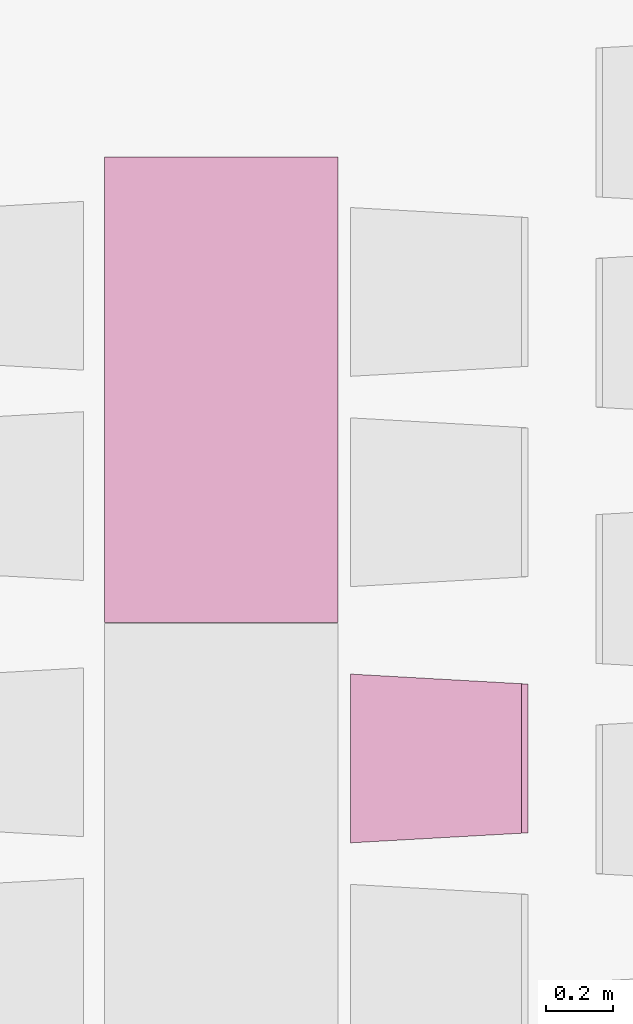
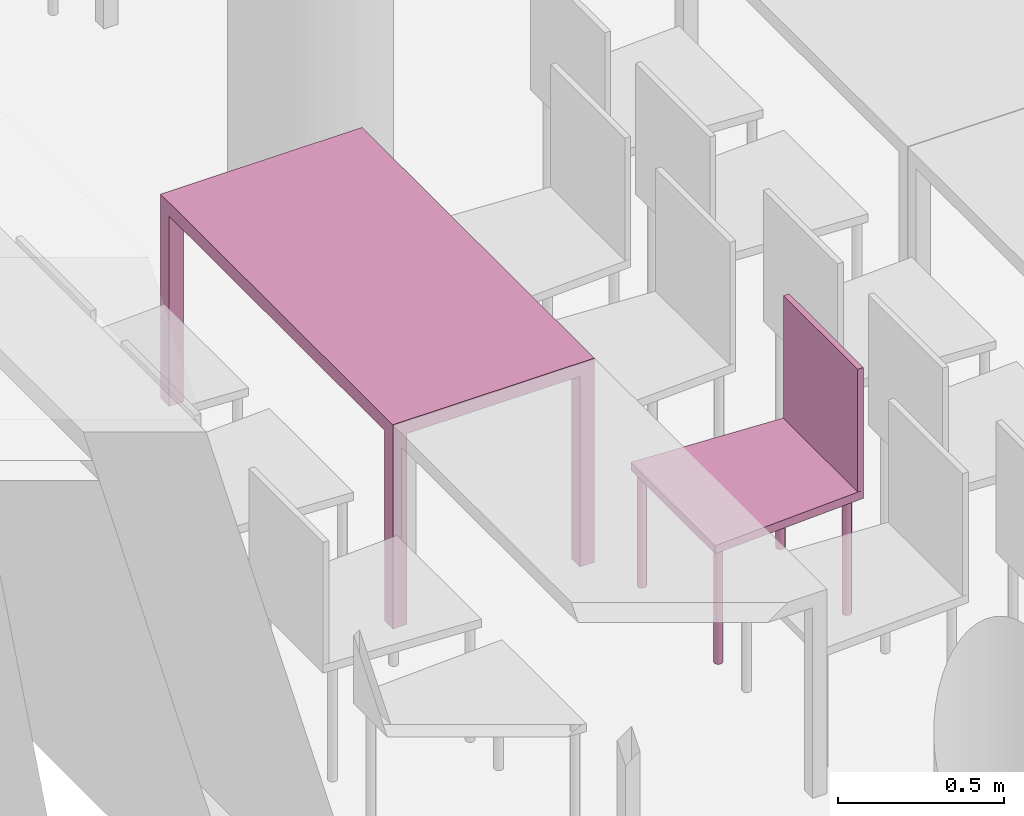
"""IFC4 building model written with IfcOpenShell, lengths in metres."""

import ifcopenshell
import ifcopenshell.guid

model = None  # the IFC model being written
_history = None  # IfcOwnerHistory: only IFC2X3 demands one
_inside = {}  # id of a spatial element -> (the spatial element, [elements in it])
_under = {}  # id of a project, library or spatial element -> (it, [spatial elements below it])
_declared = {}  # id of a project -> (the project, [libraries it declares])
_typed = {}  # id of a type object -> (the type object, [elements of that type])
_made_of = {}  # id of a material, layer set ... -> (it, [elements and type objects made of it])


def new_model(schema):
    """Start an empty IFC model of exactly this schema.

    Asked for "IFC4X3", IfcOpenShell would pick the latest addendum, in which some entities
    have other attributes; the version numbers below select the first issue.
    IFC2X3 requires an IfcOwnerHistory on every rooted entity: one is made here for all.
    """
    global model, _history
    if schema == "IFC4X3":
        model = ifcopenshell.file(schema_version=(4, 3, 0, 0))
    else:
        model = ifcopenshell.file(schema=schema)
    _inside.clear()
    _under.clear()
    _declared.clear()
    _typed.clear()
    _made_of.clear()
    _history = None
    if model.schema == "IFC2X3":
        org = make("IfcOrganization", Name="unknown")
        user = make(
            "IfcPersonAndOrganization",
            ThePerson=make("IfcPerson", FamilyName="unknown"),
            TheOrganization=org,
        )
        app = make(
            "IfcApplication",
            ApplicationDeveloper=org,
            Version="unknown",
            ApplicationFullName="unknown",
            ApplicationIdentifier="unknown",
        )
        _history = make(
            "IfcOwnerHistory",
            OwningUser=user,
            OwningApplication=app,
            ChangeAction="ADDED",
            CreationDate=0,
        )
    return model


def make(cls, **values):
    """One entity of the class cls with the attributes given. An attribute that is None is left unset."""
    return model.create_entity(
        cls, **{name: value for name, value in values.items() if value is not None}
    )


def entity(cls, *values):
    """Any entity or typed value of the class cls, its attributes in the order of the schema. None: left unset."""
    e = model.create_entity(cls)
    for i, value in enumerate(values):
        if value is not None:
            e[i] = value
    return e


def rooted(cls, **values):
    """An entity with a GlobalId (a new one), such as an element, a storey or a relation."""
    return make(cls, GlobalId=ifcopenshell.guid.new(), OwnerHistory=_history, **values)


def si_unit(unit_type, name, prefix=None):
    """IfcSIUnit, for example si_unit("LENGTHUNIT", "METRE", prefix="MILLI")."""
    return make("IfcSIUnit", UnitType=unit_type, Prefix=prefix, Name=name)


def converted_unit(unit_type, name, factor, base, dimensions=None, offset=None):
    """IfcConversionBasedUnit, such as the inch: factor (a typed value) times the base unit."""
    return make(
        "IfcConversionBasedUnit"
        if offset is None
        else "IfcConversionBasedUnitWithOffset",
        ConversionOffset=offset,
        Dimensions=None
        if dimensions is None
        else entity("IfcDimensionalExponents", *dimensions),
        UnitType=unit_type,
        Name=name,
        ConversionFactor=make(
            "IfcMeasureWithUnit", ValueComponent=factor, UnitComponent=base
        ),
    )


def derived_unit(unit_type, elements):
    """IfcDerivedUnit: a product of units, each with its exponent."""
    return make(
        "IfcDerivedUnit",
        Elements=[
            make("IfcDerivedUnitElement", Unit=unit, Exponent=power)
            for unit, power in elements
        ],
        UnitType=unit_type,
    )


def assignment(units):
    """IfcUnitAssignment: the units of a project."""
    return None if units is None else make("IfcUnitAssignment", Units=units)


def point(xyz):
    """IfcCartesianPoint."""
    return None if xyz is None else make("IfcCartesianPoint", Coordinates=xyz)


def direction(xyz):
    """IfcDirection."""
    return None if xyz is None else make("IfcDirection", DirectionRatios=xyz)


def frame(location, z_axis=None, x_axis=None):
    """IfcAxis2Placement3D, a coordinate frame: its origin and axes. An axis left out is left unset."""
    return make(
        "IfcAxis2Placement3D",
        Location=point(location),
        Axis=direction(z_axis),
        RefDirection=direction(x_axis),
    )


def origin():
    """The frame at (0, 0, 0) with its axes left unset."""
    return frame((0.0, 0.0, 0.0))


def place(relative_to, where):
    """IfcLocalPlacement: puts the frame where relative to a parent placement (None: the world)."""
    return make(
        "IfcLocalPlacement", PlacementRelTo=relative_to, RelativePlacement=where
    )


def context(
    kind, dimensions, precision=None, world=None, true_north=None, identifier=None
):
    """IfcGeometricRepresentationContext, for example the 3D "Model" context."""
    return make(
        "IfcGeometricRepresentationContext",
        ContextIdentifier=identifier,
        ContextType=kind,
        CoordinateSpaceDimension=dimensions,
        Precision=precision,
        WorldCoordinateSystem=world,
        TrueNorth=true_north,
    )


def subcontext(parent, identifier, kind, view, scale=None):
    """IfcGeometricRepresentationSubContext, for example "Body" below "Model"."""
    return make(
        "IfcGeometricRepresentationSubContext",
        ContextIdentifier=identifier,
        ContextType=kind,
        ParentContext=parent,
        TargetScale=scale,
        TargetView=view,
    )


def project(units=None, contexts=None):
    """IfcProject with its units and contexts."""
    return rooted(
        "IfcProject",
        Name="project",
        RepresentationContexts=contexts,
        UnitsInContext=assignment(units),
    )


def spatial(cls, under=None, at=None, **own):
    """A site, building, storey or space (cls), placed at a placement, below another one or the project."""
    s = rooted(cls, ObjectPlacement=at, **own)
    if under is not None:
        _under.setdefault(under.id(), (under, []))[1].append(s)
    return s


def faces_of(points, faces, orient=None, outer=None):
    """IfcFace entities. A face is a list of loops; a loop is a list of indices into points, from 0.

    orient and outer hold one flag for each loop. By default every Orientation is true, the
    first loop of a face is its IfcFaceOuterBound and the others are IfcFaceBound.
    """
    made = []
    for i, loops in enumerate(faces):
        bounds = []
        for j, loop in enumerate(loops):
            is_outer = j == 0 if outer is None else outer[i][j]
            bounds.append(
                make(
                    "IfcFaceOuterBound" if is_outer else "IfcFaceBound",
                    Bound=make("IfcPolyLoop", Polygon=[points[k] for k in loop]),
                    Orientation=True if orient is None else orient[i][j],
                )
            )
        made.append(make("IfcFace", Bounds=bounds))
    return made


def faceted_brep(points, faces, orient=None, outer=None, voids=None):
    """IfcFacetedBrep: a solid bounded by flat faces; with voids (closed shells), ...WithVoids."""
    shared = [point(p) for p in points]
    hull = make("IfcClosedShell", CfsFaces=faces_of(shared, faces, orient, outer))
    if voids is None:
        return make("IfcFacetedBrep", Outer=hull)
    return make(
        "IfcFacetedBrepWithVoids",
        Outer=hull,
        Voids=[
            make(cls, CfsFaces=faces_of(shared, fs, o, b)) for cls, fs, o, b in voids
        ],
    )


def shape(context_of_items, identifier, shape_type, items):
    """IfcShapeRepresentation: the items that make up one representation, for example the "Body"."""
    return make(
        "IfcShapeRepresentation",
        ContextOfItems=context_of_items,
        RepresentationIdentifier=identifier,
        RepresentationType=shape_type,
        Items=items,
    )


def made_of(thing, what):
    """Note that an element or type object is made of a material, layer set ...; save() writes the relation."""
    if what is not None:
        _made_of.setdefault(what.id(), (what, []))[1].append(thing)
    return thing


def element(
    cls,
    number,
    at=None,
    inside=None,
    cuts=None,
    type_object=None,
    material=None,
    context=None,
    identifier="Body",
    shape_type=None,
    held_by="IfcProductDefinitionShape",
    body=None,
    shapes=None,
    **own,
):
    """One element of the class cls, such as IfcWall. Its Tag is "e" and its number.

    at: its placement. inside: the storey or other place that contains it. cuts: it is an
    opening in that element (IfcRelVoidsElement). A single representation is given by context,
    identifier, shape_type and body (its items); several are given by shapes. held_by: the class
    of the entity that holds the representations. save() writes the other relations.
    """
    e = rooted(cls, Tag="e%d" % number, ObjectPlacement=at, **own)
    if body is not None:
        shapes = [shape(context, identifier, shape_type, body)]
    if shapes is not None:
        e.Representation = make(held_by, Representations=shapes)
    if inside is not None:
        _inside.setdefault(inside.id(), (inside, []))[1].append(e)
    if cuts is not None:
        rooted(
            "IfcRelVoidsElement", RelatingBuildingElement=cuts, RelatedOpeningElement=e
        )
    if type_object is not None:
        _typed.setdefault(type_object.id(), (type_object, []))[1].append(e)
    return made_of(e, material)


def aggregate(whole, parts):
    """IfcRelAggregates: a whole, such as a stair, and the parts it consists of."""
    return rooted("IfcRelAggregates", RelatingObject=whole, RelatedObjects=parts)


def save(model, path):
    """Write the relations noted so far, then the file.

    IfcRelAggregates (storeys below a building ...), IfcRelContainedInSpatialStructure (elements
    in a storey), IfcRelDefinesByType, IfcRelAssociatesMaterial and IfcRelDeclares: one each for
    every whole, place, type object, material and project.
    """
    for whole, parts in _under.values():
        aggregate(whole, parts)
    for where, things in _inside.values():
        rooted(
            "IfcRelContainedInSpatialStructure",
            RelatedElements=things,
            RelatingStructure=where,
        )
    for kind, things in _typed.values():
        rooted("IfcRelDefinesByType", RelatedObjects=things, RelatingType=kind)
    for what, things in _made_of.values():
        rooted("IfcRelAssociatesMaterial", RelatedObjects=things, RelatingMaterial=what)
    for by, libraries in _declared.values():
        rooted("IfcRelDeclares", RelatingContext=by, RelatedDefinitions=libraries)
    model.write(path)


model = new_model("IFC4")

# Units and contexts
model_context = context("Model", 3, precision=1e-05, world=origin())
body_context = subcontext(model_context, "Body", "Model", "MODEL_VIEW")
ifc_project = project(units=[si_unit("LENGTHUNIT", "METRE"), si_unit("AREAUNIT", "SQUARE_METRE"), si_unit("VOLUMEUNIT", "CUBIC_METRE"), si_unit("MASSUNIT", "GRAM", prefix="KILO"), converted_unit("PLANEANGLEUNIT", "DEGREE", entity("IfcPlaneAngleMeasure", 0.0174532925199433), si_unit("PLANEANGLEUNIT", "RADIAN"), dimensions=[0, 0, 0, 0, 0, 0, 0]), derived_unit("THERMALTRANSMITTANCEUNIT", [(si_unit("POWERUNIT", "WATT"), 1), (si_unit("THERMODYNAMICTEMPERATUREUNIT", "KELVIN"), -1), (si_unit("LENGTHUNIT", "METRE"), -2)]), derived_unit("VOLUMETRICFLOWRATEUNIT", [(si_unit("LENGTHUNIT", "METRE"), 3), (converted_unit("TIMEUNIT", "hour", entity("IfcTimeMeasure", 3600.0), si_unit("TIMEUNIT", "SECOND"), dimensions=[0, 0, 1, 0, 0, 0, 0]), -1), (si_unit("LENGTHUNIT", "METRE"), -1)])], contexts=[model_context])

# Building, storeys
building_placement = place(None, origin())
building = spatial("IfcBuilding", under=ifc_project, at=building_placement, Name="HABITATGE PLURIFAMILIAR", CompositionType="ELEMENT")
storey_1_placement = place(building_placement, frame((0.0, 0.0, 3.35)))
storey_1 = spatial("IfcBuildingStorey", under=building, at=storey_1_placement, Name="PLANTA  ALTELL", CompositionType="ELEMENT", Elevation=3.35)
storey_2_placement = place(storey_1_placement, origin())
storey_2 = spatial("IfcBuildingStorey", under=storey_1, at=storey_2_placement, Name="NOU", CompositionType="PARTIAL")

# Furniture
furniture_1_placement = place(storey_2_placement, frame((399.981918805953, 15.5626455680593, 0.05)))
element("IfcFurniture", 1, at=furniture_1_placement, inside=storey_2, Name="Taula 140X80_PA", context=body_context, shape_type="Brep", body=[
    faceted_brep([(0.7, 0.0500000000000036, 0.0), (0.65, 0.0500000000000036, 0.0), (0.65, 0.0, 0.0), (0.7, 0.0, 0.0), (0.65, 0.0500000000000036, 0.7), (0.7, 0.0500000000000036, 0.7), (0.7, 0.0, 0.7), (0.65, 0.0, 0.7)], [[[0, 1, 2, 3]], [[4, 5, 6, 7]], [[1, 0, 5, 4]], [[2, 1, 4, 7]], [[3, 2, 7, 6]], [[0, 3, 6, 5]]], orient=[[False], [False], [False], [False], [False], [False]]),
    faceted_brep([(0.7, 1.39694592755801, 0.0), (0.65, 1.39694592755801, 0.0), (0.65, 1.34694592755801, 0.0), (0.7, 1.34694592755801, 0.0), (0.65, 1.39694592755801, 0.7), (0.7, 1.39694592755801, 0.7), (0.7, 1.34694592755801, 0.7), (0.65, 1.34694592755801, 0.7)], [[[0, 1, 2, 3]], [[4, 5, 6, 7]], [[1, 0, 5, 4]], [[2, 1, 4, 7]], [[3, 2, 7, 6]], [[0, 3, 6, 5]]], orient=[[False], [False], [False], [False], [False], [False]]),
    faceted_brep([(0.7, 1.396945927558, 0.7), (0.0, 1.396945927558, 0.7), (0.0, 0.0, 0.7), (0.7, 0.0, 0.7), (0.0, 1.396945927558, 0.75), (0.7, 1.396945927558, 0.75), (0.7, 0.0, 0.75), (0.0, 0.0, 0.75)], [[[0, 1, 2, 3]], [[4, 5, 6, 7]], [[1, 0, 5, 4]], [[2, 1, 4, 7]], [[3, 2, 7, 6]], [[0, 3, 6, 5]]], orient=[[False], [False], [False], [False], [False], [False]]),
    faceted_brep([(0.05, 0.05, 0.0), (0.0, 0.05, 0.0), (0.0, 0.0, 0.0), (0.05, 0.0, 0.0), (0.0, 0.05, 0.7), (0.05, 0.05, 0.7), (0.05, 0.0, 0.7), (0.0, 0.0, 0.7)], [[[0, 1, 2, 3]], [[4, 5, 6, 7]], [[1, 0, 5, 4]], [[2, 1, 4, 7]], [[3, 2, 7, 6]], [[0, 3, 6, 5]]], orient=[[False], [False], [False], [False], [False], [False]]),
    faceted_brep([(0.05, 1.396945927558, 0.0), (0.0, 1.396945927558, 0.0), (0.0, 1.346945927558, 0.0), (0.05, 1.346945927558, 0.0), (0.0, 1.396945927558, 0.7), (0.05, 1.396945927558, 0.7), (0.05, 1.346945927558, 0.7), (0.0, 1.346945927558, 0.7)], [[[0, 1, 2, 3]], [[4, 5, 6, 7]], [[1, 0, 5, 4]], [[2, 1, 4, 7]], [[3, 2, 7, 6]], [[0, 3, 6, 5]]], orient=[[False], [False], [False], [False], [False], [False]]),
])
furniture_2_placement = place(storey_2_placement, frame((400.719669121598, 14.9018682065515, 0.0499839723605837)))
element("IfcFurniture", 2, at=furniture_2_placement, inside=storey_2, Name="Cadira confident_PA", context=body_context, shape_type="Brep", body=[
    faceted_brep([(0.0250324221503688, 0.0391636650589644, 0.0), (0.0224394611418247, 0.0389254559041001, 0.0), (0.0199272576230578, 0.038240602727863, 0.0), (0.0175721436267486, 0.0371299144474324, 0.0), (0.0154456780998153, 0.0356271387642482, 0.0), (0.0136124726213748, 0.0337779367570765, 0.0), (0.0121282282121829, 0.0316384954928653, 0.0), (0.0110380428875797, 0.0292738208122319, 0.0), (0.010375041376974, 0.0267557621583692, 0.0), (0.0101593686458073, 0.0241608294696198, 0.0), (0.010397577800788, 0.0215678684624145, 0.0), (0.0110824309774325, 0.0190556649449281, 0.0), (0.0121931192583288, 0.0167005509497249, 0.0), (0.0136958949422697, 0.0145740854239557, 0.0), (0.0155450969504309, 0.0127408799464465, 0.0), (0.0176845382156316, 0.0112566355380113, 0.0), (0.0200492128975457, 0.010166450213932, 0.0), (0.0225672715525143, 0.00950344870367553, 0.0), (0.0251622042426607, 0.00928777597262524, 0.0), (0.0277551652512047, 0.00952598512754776, 0.0), (0.0302673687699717, 0.0102108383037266, 0.0), (0.0326224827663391, 0.0113215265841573, 0.0), (0.0347489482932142, 0.0128243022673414, 0.0), (0.0365821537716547, 0.0146735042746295, 0.0), (0.0380663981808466, 0.0168129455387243, 0.0), (0.0391565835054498, 0.019177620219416, 0.0), (0.0398195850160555, 0.0216956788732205, 0.0), (0.0400352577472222, 0.0242906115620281, 0.0), (0.0397970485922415, 0.0268835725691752, 0.0), (0.0391121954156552, 0.0293957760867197, 0.0), (0.0380015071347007, 0.0317508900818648, 0.0), (0.0364987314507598, 0.0338773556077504, 0.0), (0.0346495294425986, 0.0357105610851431, 0.0), (0.0325100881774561, 0.0371948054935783, 0.0), (0.030145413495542, 0.0382849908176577, 0.0), (0.0276273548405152, 0.0389479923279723, 0.0), (0.0250324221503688, 0.0391636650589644, 0.448281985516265), (0.0276273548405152, 0.0389479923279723, 0.448281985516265), (0.030145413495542, 0.0382849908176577, 0.448281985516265), (0.0325100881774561, 0.0371948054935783, 0.448281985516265), (0.0346495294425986, 0.0357105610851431, 0.448281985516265), (0.0364987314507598, 0.0338773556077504, 0.448281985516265), (0.0380015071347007, 0.0317508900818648, 0.448281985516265), (0.0391121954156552, 0.0293957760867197, 0.448281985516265), (0.0397970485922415, 0.0268835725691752, 0.448281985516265), (0.0400352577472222, 0.0242906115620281, 0.448281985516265), (0.0398195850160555, 0.0216956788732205, 0.448281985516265), (0.0391565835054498, 0.019177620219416, 0.448281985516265), (0.0380663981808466, 0.0168129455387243, 0.448281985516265), (0.0365821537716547, 0.0146735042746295, 0.448281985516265), (0.0347489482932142, 0.0128243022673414, 0.448281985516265), (0.0326224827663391, 0.0113215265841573, 0.448281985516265), (0.0302673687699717, 0.0102108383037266, 0.448281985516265), (0.0277551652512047, 0.00952598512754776, 0.448281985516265), (0.0251622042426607, 0.00928777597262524, 0.448281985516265), (0.0225672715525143, 0.00950344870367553, 0.448281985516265), (0.0200492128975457, 0.010166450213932, 0.448281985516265), (0.0176845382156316, 0.0112566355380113, 0.448281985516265), (0.0155450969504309, 0.0127408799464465, 0.448281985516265), (0.0136958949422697, 0.0145740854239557, 0.448281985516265), (0.0121931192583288, 0.0167005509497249, 0.448281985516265), (0.0110824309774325, 0.0190556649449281, 0.448281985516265), (0.010397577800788, 0.0215678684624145, 0.448281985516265), (0.0101593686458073, 0.0241608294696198, 0.448281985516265), (0.010375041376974, 0.0267557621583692, 0.448281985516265), (0.0110380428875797, 0.0292738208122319, 0.448281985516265), (0.0121282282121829, 0.0316384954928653, 0.448281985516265), (0.0136124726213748, 0.0337779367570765, 0.448281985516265), (0.0154456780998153, 0.0356271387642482, 0.448281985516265), (0.0175721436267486, 0.0371299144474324, 0.448281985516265), (0.0199272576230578, 0.038240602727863, 0.448281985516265), (0.0224394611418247, 0.0389254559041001, 0.448281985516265)], [[[0, 1, 2, 3, 4, 5, 6, 7, 8, 9, 10, 11, 12, 13, 14, 15, 16, 17, 18, 19, 20, 21, 22, 23, 24, 25, 26, 27, 28, 29, 30, 31, 32, 33, 34, 35]], [[36, 37, 38, 39, 40, 41, 42, 43, 44, 45, 46, 47, 48, 49, 50, 51, 52, 53, 54, 55, 56, 57, 58, 59, 60, 61, 62, 63, 64, 65, 66, 67, 68, 69, 70, 71]], [[35, 37, 36, 0]], [[34, 38, 37, 35]], [[33, 39, 38, 34]], [[32, 40, 39, 33]], [[31, 41, 40, 32]], [[30, 42, 41, 31]], [[29, 43, 42, 30]], [[28, 44, 43, 29]], [[27, 45, 44, 28]], [[26, 46, 45, 27]], [[25, 47, 46, 26]], [[24, 48, 47, 25]], [[23, 49, 48, 24]], [[22, 50, 49, 23]], [[21, 51, 50, 22]], [[20, 52, 51, 21]], [[19, 53, 52, 20]], [[18, 54, 53, 19]], [[17, 55, 54, 18]], [[16, 56, 55, 17]], [[15, 57, 56, 16]], [[14, 58, 57, 15]], [[13, 59, 58, 14]], [[12, 60, 59, 13]], [[11, 61, 60, 12]], [[10, 62, 61, 11]], [[9, 63, 62, 10]], [[8, 64, 63, 9]], [[7, 65, 64, 8]], [[6, 66, 65, 7]], [[5, 67, 66, 6]], [[4, 68, 67, 5]], [[3, 69, 68, 4]], [[2, 70, 69, 3]], [[1, 71, 70, 2]], [[0, 36, 71, 1]]], orient=[[False], [False], [False], [False], [False], [False], [False], [False], [False], [False], [False], [False], [False], [False], [False], [False], [False], [False], [False], [False], [False], [False], [False], [False], [False], [False], [False], [False], [False], [False], [False], [False], [False], [False], [False], [False], [False], [False]]),
    faceted_brep([(0.487439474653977, 0.0668016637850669, 0.0), (0.484846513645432, 0.0665634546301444, 0.0), (0.482334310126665, 0.0658786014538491, 0.0), (0.479979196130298, 0.0647679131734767, 0.0), (0.477852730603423, 0.0632651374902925, 0.0), (0.476019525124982, 0.0614159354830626, 0.0), (0.474535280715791, 0.0592764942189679, 0.0), (0.473445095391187, 0.056911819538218, 0.0), (0.472782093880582, 0.0543937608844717, 0.0), (0.472566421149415, 0.0517988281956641, 0.0), (0.472804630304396, 0.0492058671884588, 0.0), (0.473489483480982, 0.0466936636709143, 0.0), (0.474600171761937, 0.0443385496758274, 0.0), (0.476102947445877, 0.0422120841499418, 0.0), (0.477952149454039, 0.0403788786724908, 0.0), (0.480091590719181, 0.0388946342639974, 0.0), (0.482456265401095, 0.0378044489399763, 0.0), (0.484974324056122, 0.0371414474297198, 0.0), (0.487569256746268, 0.0369257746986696, 0.0), (0.490162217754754, 0.0371639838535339, 0.0), (0.492674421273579, 0.0378488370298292, 0.0), (0.495029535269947, 0.0389595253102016, 0.0), (0.497156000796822, 0.0404623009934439, 0.0), (0.498989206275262, 0.0423115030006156, 0.0), (0.500473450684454, 0.0444509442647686, 0.0), (0.501563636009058, 0.0468156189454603, 0.0), (0.502226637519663, 0.0493336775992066, 0.0), (0.50244231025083, 0.0519286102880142, 0.0), (0.502204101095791, 0.0545215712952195, 0.0), (0.501519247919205, 0.057033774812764, 0.0), (0.500408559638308, 0.0593888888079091, 0.0), (0.498905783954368, 0.0615153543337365, 0.0), (0.497056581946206, 0.0633485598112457, 0.0), (0.494917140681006, 0.0648328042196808, 0.0), (0.492552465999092, 0.065922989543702, 0.0), (0.490034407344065, 0.0665859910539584, 0.0), (0.487439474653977, 0.0668016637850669, 0.448281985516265), (0.490034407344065, 0.0665859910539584, 0.448281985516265), (0.492552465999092, 0.065922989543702, 0.448281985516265), (0.494917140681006, 0.0648328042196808, 0.448281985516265), (0.497056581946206, 0.0633485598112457, 0.448281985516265), (0.498905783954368, 0.0615153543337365, 0.448281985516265), (0.500408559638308, 0.0593888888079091, 0.448281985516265), (0.501519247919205, 0.057033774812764, 0.448281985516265), (0.502204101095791, 0.0545215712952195, 0.448281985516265), (0.50244231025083, 0.0519286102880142, 0.448281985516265), (0.502226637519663, 0.0493336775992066, 0.448281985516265), (0.501563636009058, 0.0468156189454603, 0.448281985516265), (0.500473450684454, 0.0444509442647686, 0.448281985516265), (0.498989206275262, 0.0423115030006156, 0.448281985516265), (0.497156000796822, 0.0404623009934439, 0.448281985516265), (0.495029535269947, 0.0389595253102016, 0.448281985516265), (0.492674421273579, 0.0378488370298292, 0.448281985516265), (0.490162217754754, 0.0371639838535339, 0.448281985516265), (0.487569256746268, 0.0369257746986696, 0.448281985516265), (0.484974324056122, 0.0371414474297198, 0.448281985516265), (0.482456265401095, 0.0378044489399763, 0.448281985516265), (0.480091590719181, 0.0388946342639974, 0.448281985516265), (0.477952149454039, 0.0403788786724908, 0.448281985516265), (0.476102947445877, 0.0422120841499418, 0.448281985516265), (0.474600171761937, 0.0443385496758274, 0.448281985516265), (0.473489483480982, 0.0466936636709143, 0.448281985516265), (0.472804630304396, 0.0492058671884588, 0.448281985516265), (0.472566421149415, 0.0517988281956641, 0.448281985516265), (0.472782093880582, 0.0543937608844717, 0.448281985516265), (0.473445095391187, 0.056911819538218, 0.448281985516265), (0.474535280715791, 0.0592764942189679, 0.448281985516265), (0.476019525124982, 0.0614159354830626, 0.448281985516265), (0.477852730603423, 0.0632651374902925, 0.448281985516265), (0.479979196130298, 0.0647679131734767, 0.448281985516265), (0.482334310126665, 0.0658786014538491, 0.448281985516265), (0.484846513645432, 0.0665634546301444, 0.448281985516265)], [[[0, 1, 2, 3, 4, 5, 6, 7, 8, 9, 10, 11, 12, 13, 14, 15, 16, 17, 18, 19, 20, 21, 22, 23, 24, 25, 26, 27, 28, 29, 30, 31, 32, 33, 34, 35]], [[36, 37, 38, 39, 40, 41, 42, 43, 44, 45, 46, 47, 48, 49, 50, 51, 52, 53, 54, 55, 56, 57, 58, 59, 60, 61, 62, 63, 64, 65, 66, 67, 68, 69, 70, 71]], [[35, 37, 36, 0]], [[34, 38, 37, 35]], [[33, 39, 38, 34]], [[32, 40, 39, 33]], [[31, 41, 40, 32]], [[30, 42, 41, 31]], [[29, 43, 42, 30]], [[28, 44, 43, 29]], [[27, 45, 44, 28]], [[26, 46, 45, 27]], [[25, 47, 46, 26]], [[24, 48, 47, 25]], [[23, 49, 48, 24]], [[22, 50, 49, 23]], [[21, 51, 50, 22]], [[20, 52, 51, 21]], [[19, 53, 52, 20]], [[18, 54, 53, 19]], [[17, 55, 54, 18]], [[16, 56, 55, 17]], [[15, 57, 56, 16]], [[14, 58, 57, 15]], [[13, 59, 58, 14]], [[12, 60, 59, 13]], [[11, 61, 60, 12]], [[10, 62, 61, 11]], [[9, 63, 62, 10]], [[8, 64, 63, 9]], [[7, 65, 64, 8]], [[6, 66, 65, 7]], [[5, 67, 66, 6]], [[4, 68, 67, 5]], [[3, 69, 68, 4]], [[2, 70, 69, 3]], [[1, 71, 70, 2]], [[0, 36, 71, 1]]], orient=[[False], [False], [False], [False], [False], [False], [False], [False], [False], [False], [False], [False], [False], [False], [False], [False], [False], [False], [False], [False], [False], [False], [False], [False], [False], [False], [False], [False], [False], [False], [False], [False], [False], [False], [False], [False], [False], [False]]),
    faceted_brep([(0.0250324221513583, 0.499163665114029, 0.0), (0.0224394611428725, 0.498925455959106, 0.0), (0.0199272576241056, 0.498240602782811, 0.0), (0.0175721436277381, 0.497129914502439, 0.0), (0.0154456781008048, 0.495627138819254, 0.0), (0.0136124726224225, 0.493777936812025, 0.0), (0.0121282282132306, 0.491638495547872, 0.0), (0.0110380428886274, 0.489273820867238, 0.0), (0.0103750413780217, 0.486755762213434, 0.0), (0.0101593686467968, 0.484160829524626, 0.0), (0.0103975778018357, 0.481567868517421, 0.0), (0.0110824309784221, 0.479055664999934, 0.0), (0.0121931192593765, 0.476700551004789, 0.0), (0.0136958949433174, 0.474574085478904, 0.0), (0.0155450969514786, 0.472740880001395, 0.0), (0.0176845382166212, 0.471256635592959, 0.0), (0.0200492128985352, 0.470166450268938, 0.0), (0.022567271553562, 0.469503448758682, 0.0), (0.0251622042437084, 0.469287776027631, 0.0), (0.0277551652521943, 0.469525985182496, 0.0), (0.0302673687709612, 0.470210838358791, 0.0), (0.0326224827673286, 0.471321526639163, 0.0), (0.0347489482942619, 0.472824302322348, 0.0), (0.0365821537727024, 0.474673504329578, 0.0), (0.0380663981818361, 0.476812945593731, 0.0), (0.0391565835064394, 0.479177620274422, 0.0), (0.039819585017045, 0.481695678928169, 0.0), (0.0400352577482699, 0.484290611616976, 0.0), (0.039797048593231, 0.486883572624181, 0.0), (0.0391121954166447, 0.489395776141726, 0.0), (0.0380015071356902, 0.491750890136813, 0.0), (0.0364987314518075, 0.493877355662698, 0.0), (0.0346495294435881, 0.495710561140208, 0.0), (0.0325100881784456, 0.497194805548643, 0.0), (0.0301454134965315, 0.498284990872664, 0.0), (0.0276273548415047, 0.49894799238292, 0.0), (0.0250324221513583, 0.499163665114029, 0.448281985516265), (0.0276273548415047, 0.49894799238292, 0.448281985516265), (0.0301454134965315, 0.498284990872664, 0.448281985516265), (0.0325100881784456, 0.497194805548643, 0.448281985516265), (0.0346495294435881, 0.495710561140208, 0.448281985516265), (0.0364987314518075, 0.493877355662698, 0.448281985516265), (0.0380015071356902, 0.491750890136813, 0.448281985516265), (0.0391121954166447, 0.489395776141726, 0.448281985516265), (0.039797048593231, 0.486883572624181, 0.448281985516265), (0.0400352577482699, 0.484290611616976, 0.448281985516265), (0.039819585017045, 0.481695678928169, 0.448281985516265), (0.0391565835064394, 0.479177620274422, 0.448281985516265), (0.0380663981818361, 0.476812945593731, 0.448281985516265), (0.0365821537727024, 0.474673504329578, 0.448281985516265), (0.0347489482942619, 0.472824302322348, 0.448281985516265), (0.0326224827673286, 0.471321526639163, 0.448281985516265), (0.0302673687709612, 0.470210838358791, 0.448281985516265), (0.0277551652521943, 0.469525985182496, 0.448281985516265), (0.0251622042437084, 0.469287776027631, 0.448281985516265), (0.022567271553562, 0.469503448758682, 0.448281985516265), (0.0200492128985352, 0.470166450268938, 0.448281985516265), (0.0176845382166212, 0.471256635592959, 0.448281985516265), (0.0155450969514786, 0.472740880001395, 0.448281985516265), (0.0136958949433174, 0.474574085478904, 0.448281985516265), (0.0121931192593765, 0.476700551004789, 0.448281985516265), (0.0110824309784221, 0.479055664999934, 0.448281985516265), (0.0103975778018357, 0.481567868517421, 0.448281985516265), (0.0101593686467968, 0.484160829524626, 0.448281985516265), (0.0103750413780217, 0.486755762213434, 0.448281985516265), (0.0110380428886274, 0.489273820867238, 0.448281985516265), (0.0121282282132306, 0.491638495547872, 0.448281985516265), (0.0136124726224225, 0.493777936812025, 0.448281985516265), (0.0154456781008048, 0.495627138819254, 0.448281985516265), (0.0175721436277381, 0.497129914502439, 0.448281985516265), (0.0199272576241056, 0.498240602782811, 0.448281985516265), (0.0224394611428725, 0.498925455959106, 0.448281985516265)], [[[0, 1, 2, 3, 4, 5, 6, 7, 8, 9, 10, 11, 12, 13, 14, 15, 16, 17, 18, 19, 20, 21, 22, 23, 24, 25, 26, 27, 28, 29, 30, 31, 32, 33, 34, 35]], [[36, 37, 38, 39, 40, 41, 42, 43, 44, 45, 46, 47, 48, 49, 50, 51, 52, 53, 54, 55, 56, 57, 58, 59, 60, 61, 62, 63, 64, 65, 66, 67, 68, 69, 70, 71]], [[35, 37, 36, 0]], [[34, 38, 37, 35]], [[33, 39, 38, 34]], [[32, 40, 39, 33]], [[31, 41, 40, 32]], [[30, 42, 41, 31]], [[29, 43, 42, 30]], [[28, 44, 43, 29]], [[27, 45, 44, 28]], [[26, 46, 45, 27]], [[25, 47, 46, 26]], [[24, 48, 47, 25]], [[23, 49, 48, 24]], [[22, 50, 49, 23]], [[21, 51, 50, 22]], [[20, 52, 51, 21]], [[19, 53, 52, 20]], [[18, 54, 53, 19]], [[17, 55, 54, 18]], [[16, 56, 55, 17]], [[15, 57, 56, 16]], [[14, 58, 57, 15]], [[13, 59, 58, 14]], [[12, 60, 59, 13]], [[11, 61, 60, 12]], [[10, 62, 61, 11]], [[9, 63, 62, 10]], [[8, 64, 63, 9]], [[7, 65, 64, 8]], [[6, 66, 65, 7]], [[5, 67, 66, 6]], [[4, 68, 67, 5]], [[3, 69, 68, 4]], [[2, 70, 69, 3]], [[1, 71, 70, 2]], [[0, 36, 71, 1]]], orient=[[False], [False], [False], [False], [False], [False], [False], [False], [False], [False], [False], [False], [False], [False], [False], [False], [False], [False], [False], [False], [False], [False], [False], [False], [False], [False], [False], [False], [False], [False], [False], [False], [False], [False], [False], [False], [False], [False]]),
    faceted_brep([(0.48743947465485, 0.466801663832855, 0.0), (0.484846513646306, 0.466563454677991, 0.0), (0.482334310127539, 0.465878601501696, 0.0), (0.479979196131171, 0.464767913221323, 0.0), (0.477852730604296, 0.463265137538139, 0.0), (0.476019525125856, 0.461415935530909, 0.0), (0.474535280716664, 0.459276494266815, 0.0), (0.47344509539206, 0.456911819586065, 0.0), (0.472782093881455, 0.454393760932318, 0.0), (0.472566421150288, 0.451798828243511, 0.0), (0.472804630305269, 0.449205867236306, 0.0), (0.473489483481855, 0.446693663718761, 0.0), (0.47460017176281, 0.444338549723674, 0.0), (0.47610294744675, 0.442212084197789, 0.0), (0.477952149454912, 0.440378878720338, 0.0), (0.480091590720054, 0.438894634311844, 0.0), (0.482456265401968, 0.437804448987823, 0.0), (0.484974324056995, 0.437141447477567, 0.0), (0.487569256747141, 0.436925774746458, 0.0), (0.490162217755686, 0.437163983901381, 0.0), (0.492674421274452, 0.437848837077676, 0.0), (0.495029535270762, 0.438959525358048, 0.0), (0.497156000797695, 0.440462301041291, 0.0), (0.498989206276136, 0.442311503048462, 0.0), (0.500473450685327, 0.444450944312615, 0.0), (0.501563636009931, 0.446815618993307, 0.0), (0.502226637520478, 0.449333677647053, 0.0), (0.502442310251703, 0.451928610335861, 0.0), (0.502204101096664, 0.454521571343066, 0.0), (0.501519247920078, 0.457033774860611, 0.0), (0.500408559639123, 0.459388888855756, 0.0), (0.498905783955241, 0.461515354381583, 0.0), (0.497056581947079, 0.463348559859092, 0.0), (0.494917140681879, 0.464832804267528, 0.0), (0.492552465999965, 0.465922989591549, 0.0), (0.490034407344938, 0.466585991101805, 0.0), (0.48743947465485, 0.466801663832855, 0.448281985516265), (0.490034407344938, 0.466585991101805, 0.448281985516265), (0.492552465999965, 0.465922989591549, 0.448281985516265), (0.494917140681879, 0.464832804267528, 0.448281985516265), (0.497056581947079, 0.463348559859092, 0.448281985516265), (0.498905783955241, 0.461515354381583, 0.448281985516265), (0.500408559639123, 0.459388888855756, 0.448281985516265), (0.501519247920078, 0.457033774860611, 0.448281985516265), (0.502204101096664, 0.454521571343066, 0.448281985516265), (0.502442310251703, 0.451928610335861, 0.448281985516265), (0.502226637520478, 0.449333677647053, 0.448281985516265), (0.501563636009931, 0.446815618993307, 0.448281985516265), (0.500473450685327, 0.444450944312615, 0.448281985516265), (0.498989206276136, 0.442311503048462, 0.448281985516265), (0.497156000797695, 0.440462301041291, 0.448281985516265), (0.495029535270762, 0.438959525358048, 0.448281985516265), (0.492674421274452, 0.437848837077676, 0.448281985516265), (0.490162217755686, 0.437163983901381, 0.448281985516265), (0.487569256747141, 0.436925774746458, 0.448281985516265), (0.484974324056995, 0.437141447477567, 0.448281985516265), (0.482456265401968, 0.437804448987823, 0.448281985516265), (0.480091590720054, 0.438894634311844, 0.448281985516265), (0.477952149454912, 0.440378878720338, 0.448281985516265), (0.47610294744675, 0.442212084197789, 0.448281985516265), (0.47460017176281, 0.444338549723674, 0.448281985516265), (0.473489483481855, 0.446693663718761, 0.448281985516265), (0.472804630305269, 0.449205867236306, 0.448281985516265), (0.472566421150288, 0.451798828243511, 0.448281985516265), (0.472782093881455, 0.454393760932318, 0.448281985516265), (0.47344509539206, 0.456911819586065, 0.448281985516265), (0.474535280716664, 0.459276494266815, 0.448281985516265), (0.476019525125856, 0.461415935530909, 0.448281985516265), (0.477852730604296, 0.463265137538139, 0.448281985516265), (0.479979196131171, 0.464767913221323, 0.448281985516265), (0.482334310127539, 0.465878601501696, 0.448281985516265), (0.484846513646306, 0.466563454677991, 0.448281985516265)], [[[0, 1, 2, 3, 4, 5, 6, 7, 8, 9, 10, 11, 12, 13, 14, 15, 16, 17, 18, 19, 20, 21, 22, 23, 24, 25, 26, 27, 28, 29, 30, 31, 32, 33, 34, 35]], [[36, 37, 38, 39, 40, 41, 42, 43, 44, 45, 46, 47, 48, 49, 50, 51, 52, 53, 54, 55, 56, 57, 58, 59, 60, 61, 62, 63, 64, 65, 66, 67, 68, 69, 70, 71]], [[35, 37, 36, 0]], [[34, 38, 37, 35]], [[33, 39, 38, 34]], [[32, 40, 39, 33]], [[31, 41, 40, 32]], [[30, 42, 41, 31]], [[29, 43, 42, 30]], [[28, 44, 43, 29]], [[27, 45, 44, 28]], [[26, 46, 45, 27]], [[25, 47, 46, 26]], [[24, 48, 47, 25]], [[23, 49, 48, 24]], [[22, 50, 49, 23]], [[21, 51, 50, 22]], [[20, 52, 51, 21]], [[19, 53, 52, 20]], [[18, 54, 53, 19]], [[17, 55, 54, 18]], [[16, 56, 55, 17]], [[15, 57, 56, 16]], [[14, 58, 57, 15]], [[13, 59, 58, 14]], [[12, 60, 59, 13]], [[11, 61, 60, 12]], [[10, 62, 61, 11]], [[9, 63, 62, 10]], [[8, 64, 63, 9]], [[7, 65, 64, 8]], [[6, 66, 65, 7]], [[5, 67, 66, 6]], [[4, 68, 67, 5]], [[3, 69, 68, 4]], [[2, 70, 69, 3]], [[1, 71, 70, 2]], [[0, 36, 71, 1]]], orient=[[False], [False], [False], [False], [False], [False], [False], [False], [False], [False], [False], [False], [False], [False], [False], [False], [False], [False], [False], [False], [False], [False], [False], [False], [False], [False], [False], [False], [False], [False], [False], [False], [False], [False], [False], [False], [False], [False]]),
    faceted_brep([(0.532607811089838, 0.476514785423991, 0.418281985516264), (0.0, 0.506514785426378, 0.418281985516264), (0.0, 0.0, 0.418281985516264), (0.532607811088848, 0.0300000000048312, 0.418281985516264), (0.0, 0.506514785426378, 0.448281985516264), (0.532607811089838, 0.476514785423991, 0.448281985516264), (0.532607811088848, 0.0300000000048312, 0.448281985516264), (0.0, 0.0, 0.448281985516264)], [[[0, 1, 2, 3]], [[4, 5, 6, 7]], [[1, 0, 5, 4]], [[2, 1, 4, 7]], [[3, 2, 7, 6]], [[0, 3, 6, 5]]], orient=[[False], [False], [False], [False], [False], [False]]),
    faceted_brep([(0.512607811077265, 0.476514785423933, 0.448281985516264), (0.512607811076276, 0.0300000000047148, 0.448281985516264), (0.53260781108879, 0.0300000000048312, 0.448281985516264), (0.53260781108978, 0.476514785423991, 0.448281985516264), (0.512607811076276, 0.0300000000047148, 0.898281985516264), (0.512607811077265, 0.476514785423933, 0.898281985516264), (0.53260781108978, 0.476514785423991, 0.898281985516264), (0.53260781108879, 0.0300000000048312, 0.898281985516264)], [[[0, 1, 2, 3]], [[4, 5, 6, 7]], [[1, 0, 5, 4]], [[2, 1, 4, 7]], [[3, 2, 7, 6]], [[0, 3, 6, 5]]], orient=[[False], [False], [False], [False], [False], [False]]),
])

save(model, "model.ifc")
